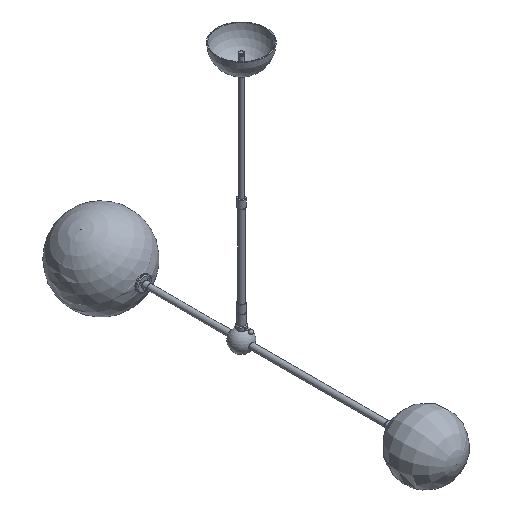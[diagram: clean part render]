
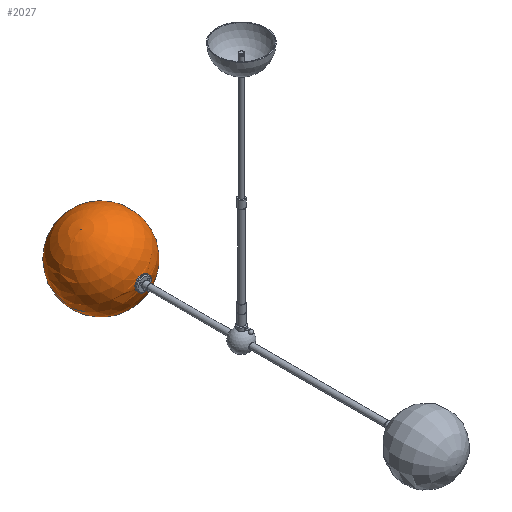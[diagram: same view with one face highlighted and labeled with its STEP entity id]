
A CAD part, isometric view. The second image highlights one B-rep face of the part: STEP entity #2027.
In plain terms, the highlighted spherical face has radius 100 mm.
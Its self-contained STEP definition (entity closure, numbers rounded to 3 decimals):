
#40=SPHERICAL_SURFACE('',#2270,100.);
#66=FACE_BOUND('',#393,.T.);
#236=FACE_OUTER_BOUND('',#392,.T.);
#392=EDGE_LOOP('',(#1565,#1566));
#393=EDGE_LOOP('',(#1567));
#763=CIRCLE('',#2271,100.);
#764=CIRCLE('',#2272,16.5);
#944=VERTEX_POINT('',#3686);
#945=VERTEX_POINT('',#3687);
#946=VERTEX_POINT('',#3689);
#1174=EDGE_CURVE('',#944,#945,#763,.T.);
#1175=EDGE_CURVE('',#946,#946,#764,.T.);
#1565=ORIENTED_EDGE('',*,*,#1174,.T.);
#1566=ORIENTED_EDGE('',*,*,#1174,.F.);
#1567=ORIENTED_EDGE('',*,*,#1175,.T.);
#2027=ADVANCED_FACE('',(#236,#66),#40,.T.);
#2270=AXIS2_PLACEMENT_3D('',#3685,#2754,#2755);
#2271=AXIS2_PLACEMENT_3D('',#3688,#2756,#2757);
#2272=AXIS2_PLACEMENT_3D('',#3690,#2758,#2759);
#2754=DIRECTION('center_axis',(0.493,0.,
-0.87));
#2755=DIRECTION('ref_axis',(0.87,0.,0.493));
#2756=DIRECTION('center_axis',(0.,1.,0.));
#2757=DIRECTION('ref_axis',(-0.87,0.,-0.493));
#2758=DIRECTION('center_axis',(0.,1.,0.));
#2759=DIRECTION('ref_axis',(0.725,0.,0.688));
#3685=CARTESIAN_POINT('Origin',(0.,340.487,100.));
#3686=CARTESIAN_POINT('',(49.287,340.487,12.99));
#3687=CARTESIAN_POINT('',(-49.287,340.487,187.01));
#3688=CARTESIAN_POINT('Origin',(0.,340.487,100.));
#3689=CARTESIAN_POINT('',(-11.969,241.858,88.643));
#3690=CARTESIAN_POINT('Origin',(0.,241.858,100.));
